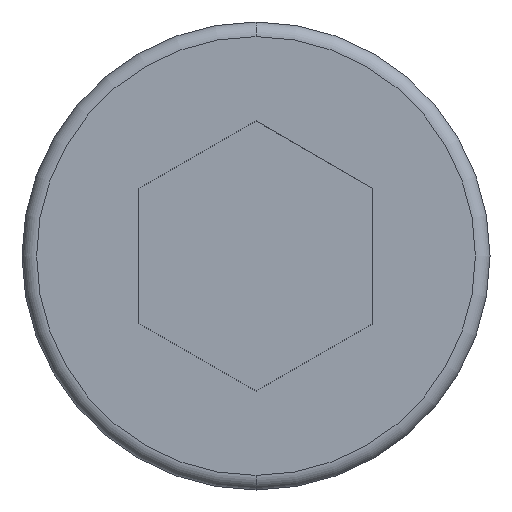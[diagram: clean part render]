
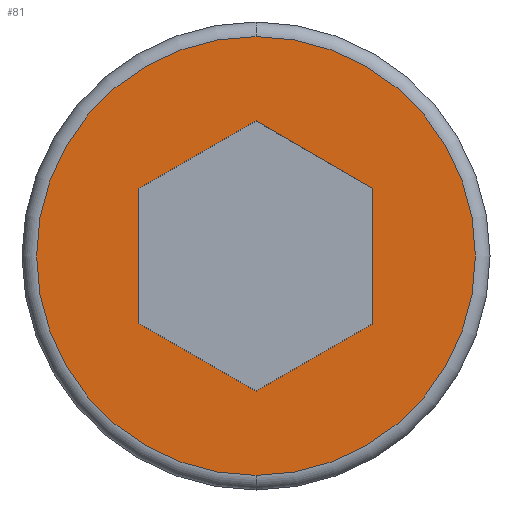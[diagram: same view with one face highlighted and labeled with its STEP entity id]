
A CAD part, front view. The second image highlights one B-rep face of the part: STEP entity #81.
In plain terms, the highlighted planar face has unit normal (0, -1, 0).
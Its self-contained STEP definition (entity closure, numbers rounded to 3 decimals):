
#28 = VERTEX_POINT ( 'NONE', #345 ) ;
#31 = VECTOR ( 'NONE', #693, 1000. ) ;
#34 = DIRECTION ( 'NONE',  ( 0.866, 0., 0.5 ) ) ;
#39 = VERTEX_POINT ( 'NONE', #101 ) ;
#42 = EDGE_LOOP ( 'NONE', ( #540, #150, #78, #577, #413, #216 ) ) ;
#43 = EDGE_CURVE ( 'NONE', #28, #39, #59, .T. ) ;
#53 = VERTEX_POINT ( 'NONE', #229 ) ;
#57 = LINE ( 'NONE', #333, #671 ) ;
#59 = LINE ( 'NONE', #644, #503 ) ;
#78 = ORIENTED_EDGE ( 'NONE', *, *, #342, .F. ) ;
#81 = ADVANCED_FACE ( 'NONE', ( #271, #378 ), #697, .T. ) ;
#94 = DIRECTION ( 'NONE',  ( -0.866, 0., -0.5 ) ) ;
#98 = ORIENTED_EDGE ( 'NONE', *, *, #393, .T. ) ;
#101 = CARTESIAN_POINT ( 'NONE',  ( 0., -10., 4.619 ) ) ;
#103 = CARTESIAN_POINT ( 'NONE',  ( 0., -10., 0. ) ) ;
#104 = DIRECTION ( 'NONE',  ( -0.866, 0., 0.5 ) ) ;
#119 = VERTEX_POINT ( 'NONE', #658 ) ;
#126 = VECTOR ( 'NONE', #94, 1000. ) ;
#136 = AXIS2_PLACEMENT_3D ( 'NONE', #239, #172, #603 ) ;
#137 = VECTOR ( 'NONE', #562, 1000. ) ;
#150 = ORIENTED_EDGE ( 'NONE', *, *, #385, .F. ) ;
#153 = CIRCLE ( 'NONE', #136, 7.5 ) ;
#172 = DIRECTION ( 'NONE',  ( 0., -1., 0. ) ) ;
#184 = LINE ( 'NONE', #681, #668 ) ;
#185 = CARTESIAN_POINT ( 'NONE',  ( -4., -10., -2.309 ) ) ;
#187 = LINE ( 'NONE', #290, #31 ) ;
#193 = CARTESIAN_POINT ( 'NONE',  ( 0., -10., -4.619 ) ) ;
#216 = ORIENTED_EDGE ( 'NONE', *, *, #43, .F. ) ;
#229 = CARTESIAN_POINT ( 'NONE',  ( 4., -10., -2.309 ) ) ;
#239 = CARTESIAN_POINT ( 'NONE',  ( 0., -10., 0. ) ) ;
#255 = VERTEX_POINT ( 'NONE', #185 ) ;
#271 = FACE_OUTER_BOUND ( 'NONE', #710, .T. ) ;
#275 = CARTESIAN_POINT ( 'NONE',  ( -4., -10., -2.309 ) ) ;
#290 = CARTESIAN_POINT ( 'NONE',  ( -4., -10., 2.309 ) ) ;
#333 = CARTESIAN_POINT ( 'NONE',  ( 0., -10., -4.619 ) ) ;
#342 = EDGE_CURVE ( 'NONE', #255, #738, #409, .T. ) ;
#345 = CARTESIAN_POINT ( 'NONE',  ( 4., -10., 2.309 ) ) ;
#351 = AXIS2_PLACEMENT_3D ( 'NONE', #654, #476, #588 ) ;
#357 = CIRCLE ( 'NONE', #479, 7.5 ) ;
#378 = FACE_BOUND ( 'NONE', #42, .T. ) ;
#385 = EDGE_CURVE ( 'NONE', #738, #53, #57, .T. ) ;
#393 = EDGE_CURVE ( 'NONE', #621, #423, #357, .T. ) ;
#409 = LINE ( 'NONE', #275, #137 ) ;
#413 = ORIENTED_EDGE ( 'NONE', *, *, #587, .F. ) ;
#423 = VERTEX_POINT ( 'NONE', #747 ) ;
#436 = EDGE_CURVE ( 'NONE', #119, #255, #187, .T. ) ;
#476 = DIRECTION ( 'NONE',  ( 0., -1., 0. ) ) ;
#477 = EDGE_CURVE ( 'NONE', #423, #621, #153, .T. ) ;
#479 = AXIS2_PLACEMENT_3D ( 'NONE', #103, #632, #573 ) ;
#503 = VECTOR ( 'NONE', #104, 1000. ) ;
#540 = ORIENTED_EDGE ( 'NONE', *, *, #678, .F. ) ;
#558 = CARTESIAN_POINT ( 'NONE',  ( 0., -10., 4.619 ) ) ;
#562 = DIRECTION ( 'NONE',  ( 0.866, 0., -0.5 ) ) ;
#573 = DIRECTION ( 'NONE',  ( 0., 0., -1. ) ) ;
#575 = DIRECTION ( 'NONE',  ( 0., 0., 1. ) ) ;
#577 = ORIENTED_EDGE ( 'NONE', *, *, #436, .F. ) ;
#587 = EDGE_CURVE ( 'NONE', #39, #119, #700, .T. ) ;
#588 = DIRECTION ( 'NONE',  ( 0., 0., -1. ) ) ;
#603 = DIRECTION ( 'NONE',  ( 0., 0., -1. ) ) ;
#621 = VERTEX_POINT ( 'NONE', #773 ) ;
#632 = DIRECTION ( 'NONE',  ( 0., -1., 0. ) ) ;
#644 = CARTESIAN_POINT ( 'NONE',  ( 4., -10., 2.309 ) ) ;
#654 = CARTESIAN_POINT ( 'NONE',  ( 0., -10., 0. ) ) ;
#658 = CARTESIAN_POINT ( 'NONE',  ( -4., -10., 2.309 ) ) ;
#668 = VECTOR ( 'NONE', #575, 1000. ) ;
#671 = VECTOR ( 'NONE', #34, 1000. ) ;
#678 = EDGE_CURVE ( 'NONE', #53, #28, #184, .T. ) ;
#681 = CARTESIAN_POINT ( 'NONE',  ( 4., -10., -2.309 ) ) ;
#693 = DIRECTION ( 'NONE',  ( 0., 0., -1. ) ) ;
#697 = PLANE ( 'NONE',  #351 ) ;
#700 = LINE ( 'NONE', #558, #126 ) ;
#710 = EDGE_LOOP ( 'NONE', ( #759, #98 ) ) ;
#738 = VERTEX_POINT ( 'NONE', #193 ) ;
#747 = CARTESIAN_POINT ( 'NONE',  ( 0., -10., -7.5 ) ) ;
#759 = ORIENTED_EDGE ( 'NONE', *, *, #477, .T. ) ;
#773 = CARTESIAN_POINT ( 'NONE',  ( 0., -10., 7.5 ) ) ;
